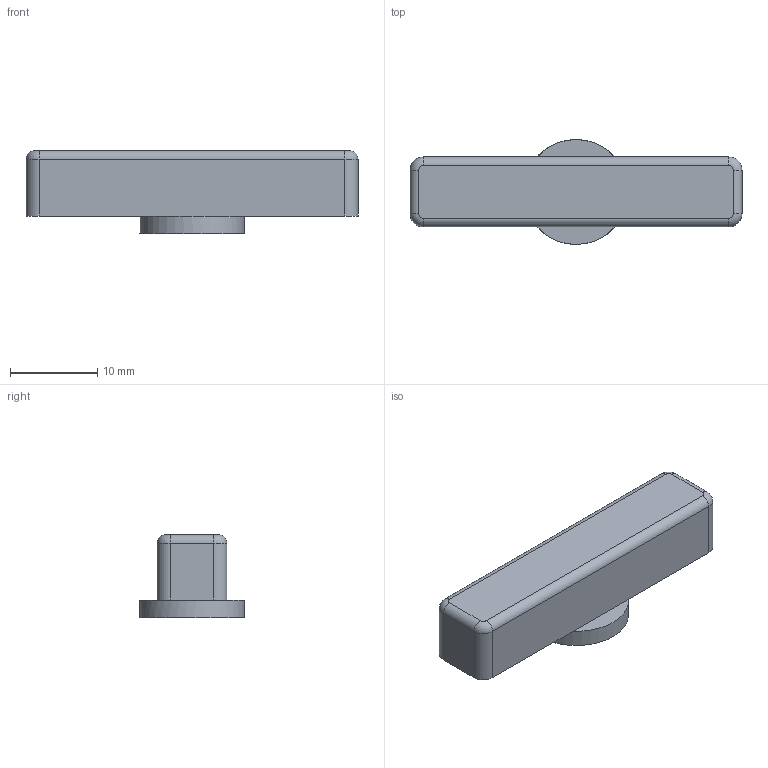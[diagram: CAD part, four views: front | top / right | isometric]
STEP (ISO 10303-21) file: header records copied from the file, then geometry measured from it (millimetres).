
FILE_DESCRIPTION(/* description */ ('STEP AP242','CAx-IF Rec.Pracs.---Representation and Presentation of Product Manufacturing Information (PMI)---4.0---2014-10-13','CAx-IF Rec.Pracs.---3D Tessellated Geometry---0.4---2014-09-14','2;1','CAx-IF Rec.Pracs.---User Defined Attributes---1.5---2016-08-15'),/* implementation_level */ '2;1');
FILE_NAME(/* name */ '692091bc921f59b3eca68fcb',/* time_stamp */ '2025-11-21T16:22:21Z',/* author */ (''),/* organization */ (''),/* preprocessor_version */ 'ST-DEVELOPER v20',/* originating_system */ 'ONSHAPE BY PTC INC, 1.206',/* authorisation */ ' ');
FILE_SCHEMA (('AP242_MANAGED_MODEL_BASED_3D_ENGINEERING_MIM_LF { 1 0 10303 442 1 1 4 }'));
Length unit declared in the file: metre
Products named in the file (1): Part 1
Bounding box: 38 x 12 x 9.5 mm (x, y, z)
Volume: 2126.5 mm3; surface area: 1558.9 mm2
Topology: 1 solids, 1 shells, 25 faces, 54 edges, 32 vertices
Faces by surface type: plane 11, cylinder 10, torus 4
Full cylindrical faces by diameter (mm): 7 x1, 12 x1
Entity records: 682 total; most frequent: DIRECTION 130, CARTESIAN_POINT 108, ORIENTED_EDGE 102, AXIS2_PLACEMENT_3D 53, EDGE_CURVE 51, VERTEX_POINT 31, EDGE_LOOP 28, FACE_BOUND 28
